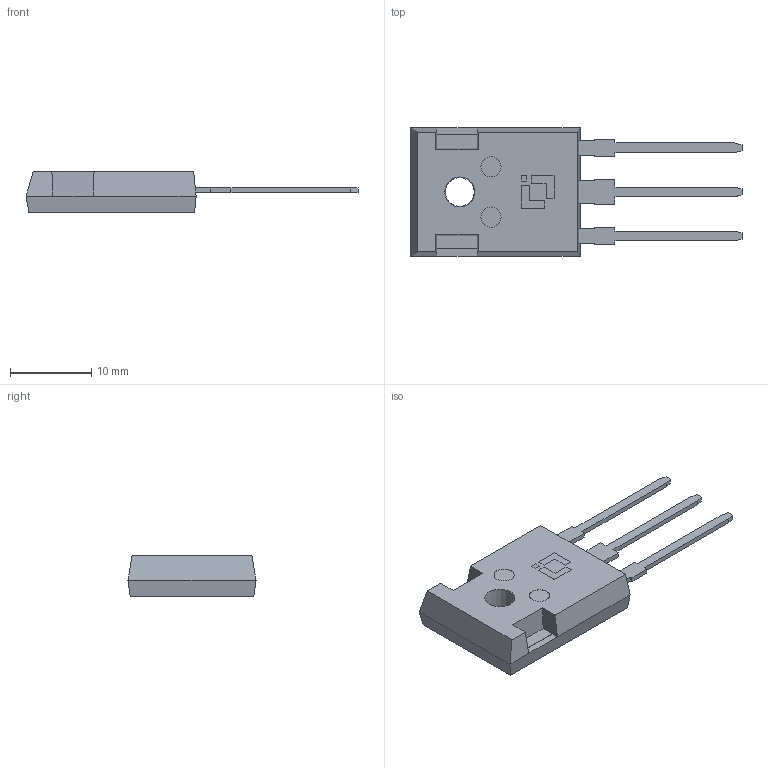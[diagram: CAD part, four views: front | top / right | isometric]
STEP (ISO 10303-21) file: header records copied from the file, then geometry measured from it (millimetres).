
FILE_DESCRIPTION(('HOOPS Exchange Step'),'2;1');
FILE_NAME('C:\Users\jiang\AppData\Local\Packages\Shapr3D.Shapr3D_j403pzjkqtqbj\TempState\export\temp_export','2026-06-15T16:11:44+08:00',('黄宇航'),('Shapr3D Limited'),'HOOPS Exchange 2026.3','Shapr3D','Authorized');
FILE_SCHEMA( ('AP242_MANAGED_MODEL_BASED_3D_ENGINEERING_MIM_LF {1 0 10303 442 1 1 4}') );
Length unit declared in the file: millimetre
Products named in the file (1): root
Bounding box: 40.98 x 15.8 x 5 mm (x, y, z)
Volume: 1572.2 mm3; surface area: 2095.2 mm2
Topology: 6 solids, 6 shells, 131 faces, 335 edges, 219 vertices
Faces by surface type: plane 123, cylinder 7, cone 1
Full cylindrical faces by diameter (mm): 2.5 x2, 3.55 x2, 7.18 x3
Entity records: 3984 total; most frequent: CARTESIAN_POINT 687, ORIENTED_EDGE 670, DIRECTION 616, EDGE_CURVE 335, VECTOR 320, LINE 320, VERTEX_POINT 219, AXIS2_PLACEMENT_3D 148
